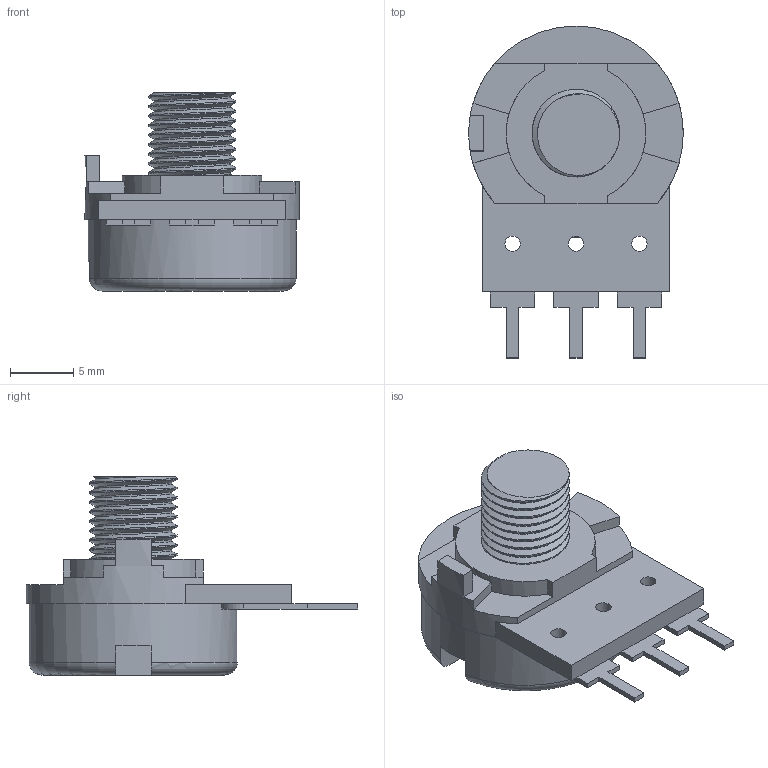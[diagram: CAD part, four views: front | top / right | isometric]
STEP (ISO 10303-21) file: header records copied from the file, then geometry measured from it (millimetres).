
FILE_DESCRIPTION(/* description */ ('STEP AP242 Edition 2','CAx-IF Rec.Pracs.---Representation and Presentation of Product Manufacturing Information (PMI)---4.0---2014-10-13','CAx-IF Rec.Pracs.---3D Tessellated Geometry---0.4---2014-09-14','2;1','CAx-IF Rec.Pracs.---User Defined Attributes---1.5---2016-08-15'),/* implementation_level */ '2;1');
FILE_NAME(/* name */ 'Assembly 1 - Base-1__Base (1)',/* time_stamp */ '2026-11-02T12:33:13Z',/* author */ (''),/* organization */ (''),/* preprocessor_version */ 'ST-DEVELOPER v20',/* originating_system */ 'ONSHAPE BY PTC INC, 1.223',/* authorisation */ ' ');
FILE_SCHEMA (('AP242_MANAGED_MODEL_BASED_3D_ENGINEERING_MIM_LF { 1 0 10303 442 3 1 4 }'));
Length unit declared in the file: millimetre
Products named in the file (1): Base:1__Base
Bounding box: 16.9 x 26.15 x 15.6 mm (x, y, z)
Volume: 2113.6 mm3; surface area: 1407.9 mm2
Topology: 1 solids, 1 shells, 77 faces, 253 edges, 178 vertices
Faces by surface type: plane 61, cylinder 13, bspline 2, torus 1
Full cylindrical faces by diameter (mm): 1.2 x3, 16.4 x1
Entity records: 4644 total; most frequent: CARTESIAN_POINT 2448, ORIENTED_EDGE 494, DIRECTION 400, EDGE_CURVE 247, VERTEX_POINT 176, LINE 156, VECTOR 156, AXIS2_PLACEMENT_3D 122
